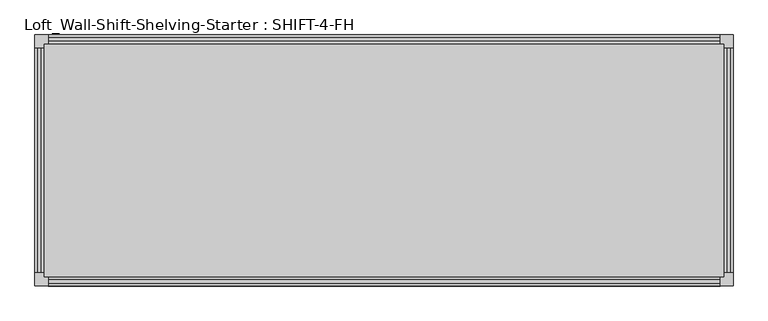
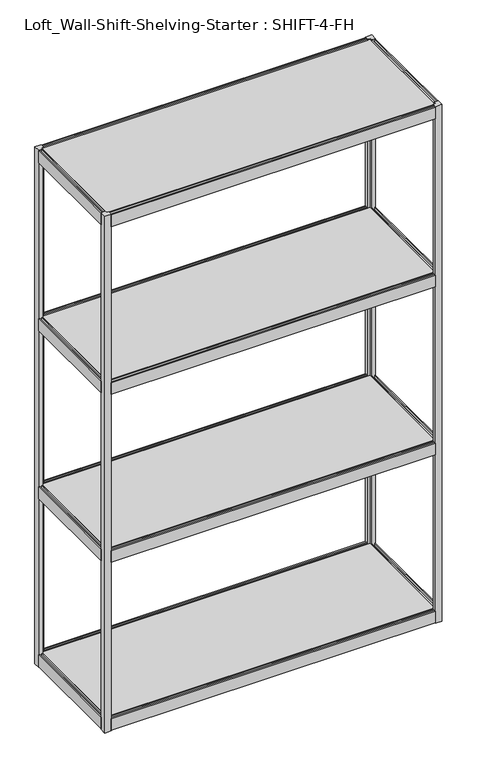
"""IFC4 building model written with IfcOpenShell, lengths in millimetres: furniture geometry, Loft_Wall-Shift-Shelving-Starter : SHIFT-4-FH."""

from ifc_helpers import new_model, si_unit, frame, origin, origin_with_axes, place, context, project, spatial, polyline, outline, extrude, source, transform, mapped, element, save


def loft_wall_shift_shelving_starter_shift_4_fh_6d0d693a(model_context):
    return source(origin(), model_context, "Body", "SweptSolid", [
        extrude(outline(polyline([(1330.8965, -609.6), (1285.6845, -609.6), (1285.6845, -605.5868), (1293.3426, -605.5868), (1293.3426, -598.3732), (1285.6845, -598.3732), (1285.6845, -594.36), (1330.8965, -594.36), (1330.8965, -598.3732), (1323.2384, -598.3732), (1323.2384, -605.5868), (1330.8965, -605.5868), (1330.8965, -609.6)])), frame((0.0, -196.215, 0.0), z_axis=(0.0, 1.0, 0.0), x_axis=(0.0, 0.0, 1.0)), (0.0, 0.0, 1.0), 392.43),
        extrude(outline(polyline([(1330.8965, 609.6), (1330.8965, 605.5868), (1323.2384, 605.5868), (1323.2384, 598.3732), (1330.8965, 598.3732), (1330.8965, 594.36), (1285.6845, 594.36), (1285.6845, 598.3732), (1293.3426, 598.3732), (1293.3426, 605.5868), (1285.6845, 605.5868), (1285.6845, 609.6), (1330.8965, 609.6)])), frame((0.0, -196.215, 0.0), z_axis=(0.0, 1.0, 0.0), x_axis=(0.0, 0.0, 1.0)), (0.0, 0.0, 1.0), 392.43),
        extrude(outline(polyline([(-203.835, 1285.6845), (-207.8482, 1285.6845), (-207.8482, 1293.3426), (-215.0618, 1293.3426), (-215.0618, 1285.6845), (-219.075, 1285.6845), (-219.075, 1330.8965), (-215.0618, 1330.8965), (-215.0618, 1323.2384), (-207.8482, 1323.2384), (-207.8482, 1330.8965), (-203.835, 1330.8965), (-203.835, 1285.6845)])), frame((-586.74, 0.0, 0.0), z_axis=(1.0, 0.0, 0.0), x_axis=(0.0, 1.0, 0.0)), (0.0, 0.0, 1.0), 1173.48),
        extrude(outline(polyline([(203.835, 1285.6845), (203.835, 1330.8965), (207.8482, 1330.8965), (207.8482, 1323.2384), (215.0618, 1323.2384), (215.0618, 1330.8965), (219.075, 1330.8965), (219.075, 1285.6845), (215.0618, 1285.6845), (215.0618, 1293.3426), (207.8482, 1293.3426), (207.8482, 1285.6845), (203.835, 1285.6845)])), frame((-586.74, 0.0, 0.0), z_axis=(1.0, 0.0, 0.0), x_axis=(0.0, 1.0, 0.0)), (0.0, 0.0, 1.0), 1173.48),
        extrude(outline(polyline([(594.36, 203.835), (594.36, -203.835), (-594.36, -203.835), (-594.36, 203.835), (594.36, 203.835)])), frame((0.0, 0.0, 1315.4631509), z_axis=(0.0, 0.0, 1.0), x_axis=(1.0, 0.0, 0.0)), (0.0, 0.0, 1.0), 15.4333491),
        extrude(outline(polyline([(689.1655, -609.6), (643.9535, -609.6), (643.9535, -605.5868), (651.6116, -605.5868), (651.6116, -598.3732), (643.9535, -598.3732), (643.9535, -594.36), (689.1655, -594.36), (689.1655, -598.3732), (681.5074, -598.3732), (681.5074, -605.5868), (689.1655, -605.5868), (689.1655, -609.6)])), frame((0.0, -196.215, 0.0), z_axis=(0.0, 1.0, 0.0), x_axis=(0.0, 0.0, 1.0)), (0.0, 0.0, 1.0), 392.43),
        extrude(outline(polyline([(689.1655, 609.6), (689.1655, 605.5868), (681.5074, 605.5868), (681.5074, 598.3732), (689.1655, 598.3732), (689.1655, 594.36), (643.9535, 594.36), (643.9535, 598.3732), (651.6116, 598.3732), (651.6116, 605.5868), (643.9535, 605.5868), (643.9535, 609.6), (689.1655, 609.6)])), frame((0.0, -196.215, 0.0), z_axis=(0.0, 1.0, 0.0), x_axis=(0.0, 0.0, 1.0)), (0.0, 0.0, 1.0), 392.43),
        extrude(outline(polyline([(-203.835, 643.9535), (-207.8482, 643.9535), (-207.8482, 651.6116), (-215.0618, 651.6116), (-215.0618, 643.9535), (-219.075, 643.9535), (-219.075, 689.1655), (-215.0618, 689.1655), (-215.0618, 681.5074), (-207.8482, 681.5074), (-207.8482, 689.1655), (-203.835, 689.1655), (-203.835, 643.9535)])), frame((-586.74, 0.0, 0.0), z_axis=(1.0, 0.0, 0.0), x_axis=(0.0, 1.0, 0.0)), (0.0, 0.0, 1.0), 1173.48),
        extrude(outline(polyline([(203.835, 643.9535), (203.835, 689.1655), (207.8482, 689.1655), (207.8482, 681.5074), (215.0618, 681.5074), (215.0618, 689.1655), (219.075, 689.1655), (219.075, 643.9535), (215.0618, 643.9535), (215.0618, 651.6116), (207.8482, 651.6116), (207.8482, 643.9535), (203.835, 643.9535)])), frame((-586.74, 0.0, 0.0), z_axis=(1.0, 0.0, 0.0), x_axis=(0.0, 1.0, 0.0)), (0.0, 0.0, 1.0), 1173.48),
        extrude(outline(polyline([(594.36, 203.835), (594.36, -203.835), (-594.36, -203.835), (-594.36, 203.835), (594.36, 203.835)])), frame((0.0, 0.0, 673.7321509), z_axis=(0.0, 0.0, 1.0), x_axis=(1.0, 0.0, 0.0)), (0.0, 0.0, 1.0), 15.4333491),
        extrude(outline(polyline([(1972.6275, -609.6), (1927.4155, -609.6), (1927.4155, -605.5868), (1935.0736, -605.5868), (1935.0736, -598.3732), (1927.4155, -598.3732), (1927.4155, -594.36), (1972.6275, -594.36), (1972.6275, -598.3732), (1964.9694, -598.3732), (1964.9694, -605.5868), (1972.6275, -605.5868), (1972.6275, -609.6)])), frame((0.0, -196.215, 0.0), z_axis=(0.0, 1.0, 0.0), x_axis=(0.0, 0.0, 1.0)), (0.0, 0.0, 1.0), 392.43),
        extrude(outline(polyline([(1972.6275, 609.6), (1972.6275, 605.5868), (1964.9694, 605.5868), (1964.9694, 598.3732), (1972.6275, 598.3732), (1972.6275, 594.36), (1927.4155, 594.36), (1927.4155, 598.3732), (1935.0736, 598.3732), (1935.0736, 605.5868), (1927.4155, 605.5868), (1927.4155, 609.6), (1972.6275, 609.6)])), frame((0.0, -196.215, 0.0), z_axis=(0.0, 1.0, 0.0), x_axis=(0.0, 0.0, 1.0)), (0.0, 0.0, 1.0), 392.43),
        extrude(outline(polyline([(-203.835, 1927.4155), (-207.8482, 1927.4155), (-207.8482, 1935.0736), (-215.0618, 1935.0736), (-215.0618, 1927.4155), (-219.075, 1927.4155), (-219.075, 1972.6275), (-215.0618, 1972.6275), (-215.0618, 1964.9694), (-207.8482, 1964.9694), (-207.8482, 1972.6275), (-203.835, 1972.6275), (-203.835, 1927.4155)])), frame((-586.74, 0.0, 0.0), z_axis=(1.0, 0.0, 0.0), x_axis=(0.0, 1.0, 0.0)), (0.0, 0.0, 1.0), 1173.48),
        extrude(outline(polyline([(203.835, 1927.4155), (203.835, 1972.6275), (207.8482, 1972.6275), (207.8482, 1964.9694), (215.0618, 1964.9694), (215.0618, 1972.6275), (219.075, 1972.6275), (219.075, 1927.4155), (215.0618, 1927.4155), (215.0618, 1935.0736), (207.8482, 1935.0736), (207.8482, 1927.4155), (203.835, 1927.4155)])), frame((-586.74, 0.0, 0.0), z_axis=(1.0, 0.0, 0.0), x_axis=(0.0, 1.0, 0.0)), (0.0, 0.0, 1.0), 1173.48),
        extrude(outline(polyline([(594.36, 203.835), (594.36, -203.835), (-594.36, -203.835), (-594.36, 203.835), (594.36, 203.835)])), frame((0.0, 0.0, 1957.1941509), z_axis=(0.0, 0.0, 1.0), x_axis=(1.0, 0.0, 0.0)), (0.0, 0.0, 1.0), 15.4333491),
        extrude(outline(polyline([(47.4345, -609.6), (2.2225, -609.6), (2.2225, -605.5868), (9.8806, -605.5868), (9.8806, -598.3732), (2.2225, -598.3732), (2.2225, -594.36), (47.4345, -594.36), (47.4345, -598.3732), (39.7764, -598.3732), (39.7764, -605.5868), (47.4345, -605.5868), (47.4345, -609.6)])), frame((0.0, -196.215, 0.0), z_axis=(0.0, 1.0, 0.0), x_axis=(0.0, 0.0, 1.0)), (0.0, 0.0, 1.0), 392.43),
        extrude(outline(polyline([(47.4345, 609.6), (47.4345, 605.5868), (39.7764, 605.5868), (39.7764, 598.3732), (47.4345, 598.3732), (47.4345, 594.36), (2.2225, 594.36), (2.2225, 598.3732), (9.8806, 598.3732), (9.8806, 605.5868), (2.2225, 605.5868), (2.2225, 609.6), (47.4345, 609.6)])), frame((0.0, -196.215, 0.0), z_axis=(0.0, 1.0, 0.0), x_axis=(0.0, 0.0, 1.0)), (0.0, 0.0, 1.0), 392.43),
        extrude(outline(polyline([(-203.835, 2.2225), (-207.8482, 2.2225), (-207.8482, 9.8806), (-215.0618, 9.8806), (-215.0618, 2.2225), (-219.075, 2.2225), (-219.075, 47.4345), (-215.0618, 47.4345), (-215.0618, 39.7764), (-207.8482, 39.7764), (-207.8482, 47.4345), (-203.835, 47.4345), (-203.835, 2.2225)])), frame((-586.74, 0.0, 0.0), z_axis=(1.0, 0.0, 0.0), x_axis=(0.0, 1.0, 0.0)), (0.0, 0.0, 1.0), 1173.48),
        extrude(outline(polyline([(203.835, 2.2225), (203.835, 47.4345), (207.8482, 47.4345), (207.8482, 39.7764), (215.0618, 39.7764), (215.0618, 47.4345), (219.075, 47.4345), (219.075, 2.2225), (215.0618, 2.2225), (215.0618, 9.8806), (207.8482, 9.8806), (207.8482, 2.2225), (203.835, 2.2225)])), frame((-586.74, 0.0, 0.0), z_axis=(1.0, 0.0, 0.0), x_axis=(0.0, 1.0, 0.0)), (0.0, 0.0, 1.0), 1173.48),
        extrude(outline(polyline([(594.36, 203.835), (594.36, -203.835), (-594.36, -203.835), (-594.36, 203.835), (594.36, 203.835)])), frame((0.0, 0.0, 32.0011509), z_axis=(0.0, 0.0, 1.0), x_axis=(1.0, 0.0, 0.0)), (0.0, 0.0, 1.0), 15.4333491),
        extrude(outline(polyline([(-586.74, -203.835), (-586.74, -219.075), (-609.6, -219.075), (-609.6, -196.215), (-594.36, -196.215), (-594.36, -203.835), (-586.74, -203.835)])), origin_with_axes(), (0.0, 0.0, 1.0), 1974.85),
        extrude(outline(polyline([(586.74, -203.835), (594.36, -203.835), (594.36, -196.215), (609.6, -196.215), (609.6, -219.075), (586.74, -219.075), (586.74, -203.835)])), origin_with_axes(), (0.0, 0.0, 1.0), 1974.85),
        extrude(outline(polyline([(-586.74, 203.835), (-594.36, 203.835), (-594.36, 196.215), (-609.6, 196.215), (-609.6, 219.075), (-586.74, 219.075), (-586.74, 203.835)])), origin_with_axes(), (0.0, 0.0, 1.0), 1974.85),
        extrude(outline(polyline([(586.74, 203.835), (586.74, 219.075), (609.6, 219.075), (609.6, 196.215), (594.36, 196.215), (594.36, 203.835), (586.74, 203.835)])), origin_with_axes(), (0.0, 0.0, 1.0), 1974.85),
    ])


if __name__ == "__main__":
    model = new_model("IFC4")
    model_context = context("Model", 3, world=origin())
    ifc_project = project(units=[si_unit("LENGTHUNIT", "METRE", prefix="MILLI")], contexts=[model_context])
    site = spatial("IfcSite", under=ifc_project)
    building = spatial("IfcBuilding", under=site)
    placement = place(None, origin())
    loft_wall_shift_shelving_starter_shift_4_fh_shape = loft_wall_shift_shelving_starter_shift_4_fh_6d0d693a(model_context)
    element("IfcFurniture", 1, ObjectType="Loft_Wall-Shift-Shelving-Starter : SHIFT-4-FH", at=placement, inside=building, context=model_context, shape_type="MappedRepresentation", body=[
        mapped(loft_wall_shift_shelving_starter_shift_4_fh_shape, transform((0.0, 0.0, 0.0), x_axis=(1.0, 0.0, 0.0), y_axis=(0.0, 1.0, 0.0), z_axis=(0.0, 0.0, 1.0))),
    ])
    save(model, "model.ifc")
